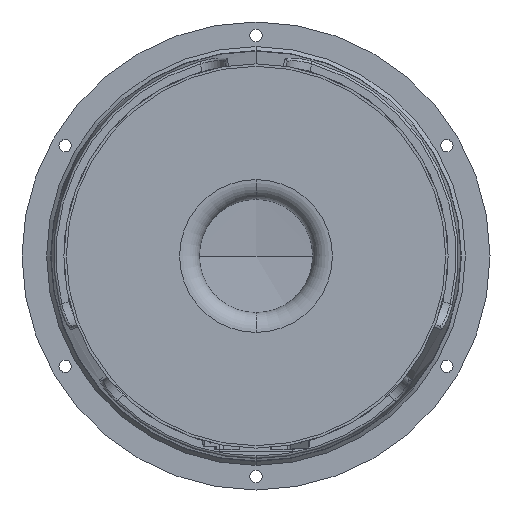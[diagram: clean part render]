
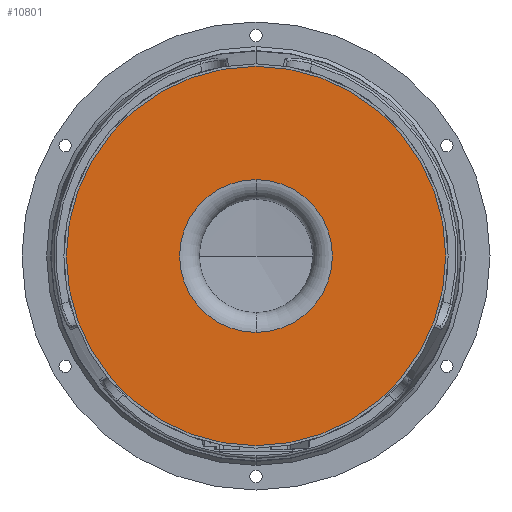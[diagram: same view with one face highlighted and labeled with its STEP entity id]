
A CAD part, front view. The second image highlights one B-rep face of the part: STEP entity #10801.
In plain terms, the highlighted planar face has unit normal (0, -1, 0).
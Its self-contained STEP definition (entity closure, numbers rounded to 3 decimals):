
#212 = CARTESIAN_POINT ( 'NONE',  ( 0., -52., -31. ) ) ;
#756 = DIRECTION ( 'NONE',  ( 0., 0., -1. ) ) ;
#1155 = CARTESIAN_POINT ( 'NONE',  ( 0., -52., 0. ) ) ;
#1196 = FACE_OUTER_BOUND ( 'NONE', #16674, .T. ) ;
#2805 = DIRECTION ( 'NONE',  ( 0., 0., -1. ) ) ;
#3761 = CARTESIAN_POINT ( 'NONE',  ( 0., -52., 0. ) ) ;
#4462 = CARTESIAN_POINT ( 'NONE',  ( 0., -52., 0. ) ) ;
#4653 = ORIENTED_EDGE ( 'NONE', *, *, #21058, .T. ) ;
#5236 = DIRECTION ( 'NONE',  ( 0., -1., 0. ) ) ;
#5423 = DIRECTION ( 'NONE',  ( 0., 0., -1. ) ) ;
#5467 = CIRCLE ( 'NONE', #8624, 31. ) ;
#5564 = FACE_BOUND ( 'NONE', #16120, .T. ) ;
#6149 = DIRECTION ( 'NONE',  ( 0., 0., -1. ) ) ;
#6745 = AXIS2_PLACEMENT_3D ( 'NONE', #17147, #10674, #756 ) ;
#6825 = CIRCLE ( 'NONE', #11362, 77. ) ;
#7354 = ORIENTED_EDGE ( 'NONE', *, *, #17885, .T. ) ;
#8251 = AXIS2_PLACEMENT_3D ( 'NONE', #1155, #12694, #2805 ) ;
#8624 = AXIS2_PLACEMENT_3D ( 'NONE', #3761, #15310, #5423 ) ;
#10374 = ORIENTED_EDGE ( 'NONE', *, *, #13832, .F. ) ;
#10471 = CIRCLE ( 'NONE', #8251, 77. ) ;
#10674 = DIRECTION ( 'NONE',  ( 0., -1., 0. ) ) ;
#10801 = ADVANCED_FACE ( 'NONE', ( #1196, #5564 ), #15514, .T. ) ;
#11362 = AXIS2_PLACEMENT_3D ( 'NONE', #4462, #15999, #6149 ) ;
#11500 = VERTEX_POINT ( 'NONE', #14511 ) ;
#11636 = VERTEX_POINT ( 'NONE', #18492 ) ;
#12679 = CARTESIAN_POINT ( 'NONE',  ( 0., -52., -77. ) ) ;
#12694 = DIRECTION ( 'NONE',  ( 0., -1., 0. ) ) ;
#13772 = ORIENTED_EDGE ( 'NONE', *, *, #18791, .F. ) ;
#13832 = EDGE_CURVE ( 'NONE', #14699, #11636, #20975, .T. ) ;
#14093 = VERTEX_POINT ( 'NONE', #12679 ) ;
#14511 = CARTESIAN_POINT ( 'NONE',  ( 0., -52., 77. ) ) ;
#14699 = VERTEX_POINT ( 'NONE', #212 ) ;
#15135 = CARTESIAN_POINT ( 'NONE',  ( 0., -52., 0. ) ) ;
#15310 = DIRECTION ( 'NONE',  ( 0., -1., 0. ) ) ;
#15514 = PLANE ( 'NONE',  #6745 ) ;
#15999 = DIRECTION ( 'NONE',  ( 0., -1., 0. ) ) ;
#16120 = EDGE_LOOP ( 'NONE', ( #10374, #13772 ) ) ;
#16674 = EDGE_LOOP ( 'NONE', ( #4653, #7354 ) ) ;
#16752 = DIRECTION ( 'NONE',  ( 0., 0., -1. ) ) ;
#17147 = CARTESIAN_POINT ( 'NONE',  ( 77., -52., 0. ) ) ;
#17885 = EDGE_CURVE ( 'NONE', #11500, #14093, #6825, .T. ) ;
#18492 = CARTESIAN_POINT ( 'NONE',  ( 0., -52., 31. ) ) ;
#18498 = AXIS2_PLACEMENT_3D ( 'NONE', #15135, #5236, #16752 ) ;
#18791 = EDGE_CURVE ( 'NONE', #11636, #14699, #5467, .T. ) ;
#20975 = CIRCLE ( 'NONE', #18498, 31. ) ;
#21058 = EDGE_CURVE ( 'NONE', #14093, #11500, #10471, .T. ) ;
